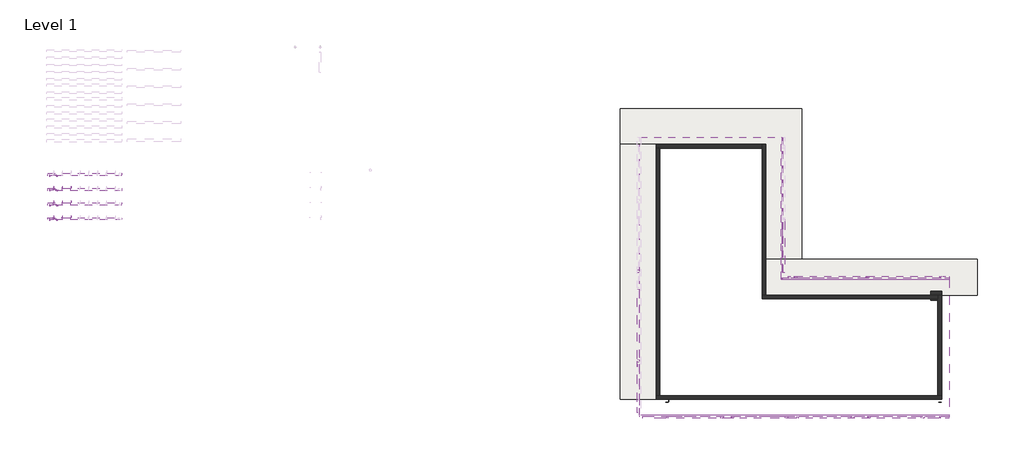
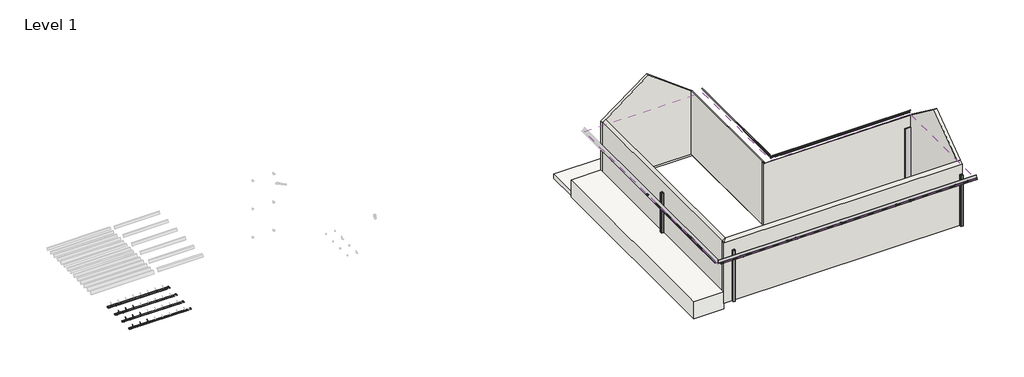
# One storey, part 1 of 2: 54 proxies, 6 walls, 4 columns, 3 slabs, 1 roof.
"""IFC4 building model written with IfcOpenShell, lengths in millimetres."""

from ifc_helpers import new_model, si_unit, point, frame, frame_2d, origin, origin_with_axes, place, context, project, spatial, polyline, circle_curve, trimmed, segment, composite_curve, outline, extrude, faceted_brep, transform, mapped, element, save
from components import alignment_bracket_76c64be8, b_205_a_160mm_78ee4c8c, b_205_a_160mm_ba62c7e3, b_205_a_160mm_6113b0de, support_for_ladder_f5df2bd2, support_for_ladder_32d1af20, support_for_ladder_5c5d3373, support_for_ladder_3a7e4ef8, t100_66401546, t100_925c021a, t100_1d9620c0, t100_6eca1e63, t100_f3096ea2, t100_06940790, t100_75c98a39, t100_31191efa, t100_2706c048, t100_ef93b6f5, t100_36081ea8, t100_625066b8, t100_25e9c31b, t100_74cc6afe, t100_1bc59f46, t100_1b2db7d9, t120_630998e2, t120_ba8461eb, t125_4bbe78e1, t125_6f816af3, t150_019cf6e0

model = new_model("IFC4")

# Units and contexts
model_context = context("Model", 3, world=origin())
ifc_project = project(units=[si_unit("LENGTHUNIT", "METRE", prefix="MILLI")], contexts=[model_context])

# Site, building, storey
site = spatial("IfcSite", under=ifc_project)
building = spatial("IfcBuilding", under=site)
storey = spatial("IfcBuildingStorey", under=building, Name="Level 1", Elevation=0.0)

# Proxies
placement = place(None, origin())
alignment_bracket_shape = alignment_bracket_76c64be8(model_context)
element("IfcBuildingElementProxy", 1, Name="GROVIK_Gutter_Alignment bracket : Alignment bracket", ObjectType="GROVIK_Gutter_Alignment bracket : Alignment bracket", at=placement, inside=storey, context=model_context, shape_type="MappedRepresentation", body=[
    mapped(alignment_bracket_shape, transform((-107.3839867, 1193.8684654, 3937.0631468), x_axis=(0.9999500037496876, 0.0, -0.00999950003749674), y_axis=(0.0, 1.0, 0.0), z_axis=(0.00999950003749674, 0.0, 0.9999500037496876))),
])
element("IfcBuildingElementProxy", 2, Name="GROVIK_Gutter_Alignment bracket : Alignment bracket", ObjectType="GROVIK_Gutter_Alignment bracket : Alignment bracket", at=placement, inside=storey, context=model_context, shape_type="MappedRepresentation", body=[
    mapped(alignment_bracket_shape, transform((-599.3593885, 1193.8684654, 3941.9829008), x_axis=(0.9999500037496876, 0.0, -0.00999950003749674), y_axis=(0.0, 1.0, 0.0), z_axis=(0.00999950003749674, 0.0, 0.9999500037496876))),
])
element("IfcBuildingElementProxy", 3, Name="GROVIK_Gutter_Alignment bracket : Alignment bracket", ObjectType="GROVIK_Gutter_Alignment bracket : Alignment bracket", at=placement, inside=storey, context=model_context, shape_type="MappedRepresentation", body=[
    mapped(alignment_bracket_shape, transform((-1091.3347904, 1193.8684654, 3946.9026548), x_axis=(0.9999500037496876, 0.0, -0.00999950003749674), y_axis=(0.0, 1.0, 0.0), z_axis=(0.00999950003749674, 0.0, 0.9999500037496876))),
])
element("IfcBuildingElementProxy", 4, Name="GROVIK_Gutter_Alignment bracket : Alignment bracket", ObjectType="GROVIK_Gutter_Alignment bracket : Alignment bracket", at=placement, inside=storey, context=model_context, shape_type="MappedRepresentation", body=[
    mapped(alignment_bracket_shape, transform((-1091.2797931, 2020.3184654, 3952.4023798), x_axis=(0.9999500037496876, 0.0, -0.009999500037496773), y_axis=(0.0, 1.0, 0.0), z_axis=(0.009999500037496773, 0.0, 0.9999500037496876))),
])
element("IfcBuildingElementProxy", 5, Name="GROVIK_Gutter_Alignment bracket : Alignment bracket", ObjectType="GROVIK_Gutter_Alignment bracket : Alignment bracket", at=placement, inside=storey, context=model_context, shape_type="MappedRepresentation", body=[
    mapped(alignment_bracket_shape, transform((-107.3289895, 2020.3184654, 3942.5628718), x_axis=(0.9999500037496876, 0.0, -0.009999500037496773), y_axis=(0.0, 1.0, 0.0), z_axis=(0.009999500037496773, 0.0, 0.9999500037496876))),
])
element("IfcBuildingElementProxy", 6, Name="GROVIK_Gutter_Alignment bracket : Alignment bracket", ObjectType="GROVIK_Gutter_Alignment bracket : Alignment bracket", at=placement, inside=storey, context=model_context, shape_type="MappedRepresentation", body=[
    mapped(alignment_bracket_shape, transform((-599.3043913, 2020.3184654, 3947.4826258), x_axis=(0.9999500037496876, 0.0, -0.009999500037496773), y_axis=(0.0, 1.0, 0.0), z_axis=(0.009999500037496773, 0.0, 0.9999500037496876))),
])
element("IfcBuildingElementProxy", 7, Name="GROVIK_Gutter_Alignment bracket : Alignment bracket", ObjectType="GROVIK_Gutter_Alignment bracket : Alignment bracket", at=placement, inside=storey, context=model_context, shape_type="MappedRepresentation", body=[
    mapped(alignment_bracket_shape, transform((-107.418985, 2852.8184654, 3933.5633218), x_axis=(0.9999500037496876, 0.0, -0.009999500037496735), y_axis=(0.0, 1.0, 0.0), z_axis=(0.009999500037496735, 0.0, 0.9999500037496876))),
])
element("IfcBuildingElementProxy", 8, Name="GROVIK_Gutter_Alignment bracket : Alignment bracket", ObjectType="GROVIK_Gutter_Alignment bracket : Alignment bracket", at=placement, inside=storey, context=model_context, shape_type="MappedRepresentation", body=[
    mapped(alignment_bracket_shape, transform((-599.3943868, 2852.8184654, 3938.4830758), x_axis=(0.9999500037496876, 0.0, -0.009999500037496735), y_axis=(0.0, 1.0, 0.0), z_axis=(0.009999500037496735, 0.0, 0.9999500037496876))),
])
element("IfcBuildingElementProxy", 9, Name="GROVIK_Gutter_Alignment bracket : Alignment bracket", ObjectType="GROVIK_Gutter_Alignment bracket : Alignment bracket", at=placement, inside=storey, context=model_context, shape_type="MappedRepresentation", body=[
    mapped(alignment_bracket_shape, transform((-1091.3697886, 2852.8184654, 3943.4028298), x_axis=(0.9999500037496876, 0.0, -0.009999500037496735), y_axis=(0.0, 1.0, 0.0), z_axis=(0.009999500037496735, 0.0, 0.9999500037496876))),
])
b_205_a_160mm_shape = b_205_a_160mm_78ee4c8c(model_context)
element("IfcBuildingElementProxy", 10, Name="GROVIK_Flashing_Eaves : B-205 A 160mm", ObjectType="GROVIK_Flashing_Eaves : B-205 A 160mm", at=placement, inside=storey, context=model_context, shape_type="MappedRepresentation", body=[
    mapped(b_205_a_160mm_shape, transform((31585.785344, -9822.1344286, 3881.25), x_axis=(1.0, 0.0, 0.0), y_axis=(0.0, 1.0, 0.0), z_axis=(0.0, 0.0, 1.0))),
])
b_205_a_160mm_2_shape = b_205_a_160mm_ba62c7e3(model_context)
element("IfcBuildingElementProxy", 11, Name="GROVIK_Flashing_Eaves : B-205 A 160mm", ObjectType="GROVIK_Flashing_Eaves : B-205 A 160mm", at=placement, inside=storey, context=model_context, shape_type="MappedRepresentation", body=[
    mapped(b_205_a_160mm_2_shape, transform((48805.785344, -2222.1344286, 3881.25), x_axis=(-1.0, 0.0, 0.0), y_axis=(0.0, -1.0, 0.0), z_axis=(0.0, 0.0, 1.0))),
])
b_205_a_160mm_3_shape = b_205_a_160mm_6113b0de(model_context)
element("IfcBuildingElementProxy", 12, Name="GROVIK_Flashing_Eaves : B-205 A 160mm", ObjectType="GROVIK_Flashing_Eaves : B-205 A 160mm", at=placement, inside=storey, context=model_context, shape_type="MappedRepresentation", body=[
    mapped(b_205_a_160mm_3_shape, transform((39485.785344, -2222.1344286, 3881.25), x_axis=(0.0, 1.0, 0.0), y_axis=(-1.0, 0.0, 0.0), z_axis=(0.0, 0.0, 1.0))),
])
support_for_ladder_shape = support_for_ladder_f5df2bd2(model_context)
element("IfcBuildingElementProxy", 13, Name="GROVIK_Special_Ladder Support : Support for ladder", ObjectType="GROVIK_Special_Ladder Support : Support for ladder", at=placement, inside=storey, context=model_context, shape_type="MappedRepresentation", body=[
    mapped(support_for_ladder_shape, transform((-1066.3350403, 3682.3684654, 3996.7551622), x_axis=(0.9999500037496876, 0.0, -0.009999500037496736), y_axis=(0.0, 1.0, 0.0), z_axis=(0.009999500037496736, 0.0, 0.9999500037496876))),
])
support_for_ladder_2_shape = support_for_ladder_32d1af20(model_context)
element("IfcBuildingElementProxy", 14, Name="GROVIK_Special_Ladder Support : Support for ladder", ObjectType="GROVIK_Special_Ladder Support : Support for ladder", at=placement, inside=storey, context=model_context, shape_type="MappedRepresentation", body=[
    mapped(support_for_ladder_2_shape, transform((-1066.3350403, 1182.3684654, 3996.7551622), x_axis=(0.9999500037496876, 0.0, -0.00999950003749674), y_axis=(0.0, 1.0, 0.0), z_axis=(0.00999950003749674, 0.0, 0.9999500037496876))),
])
support_for_ladder_3_shape = support_for_ladder_5c5d3373(model_context)
element("IfcBuildingElementProxy", 15, Name="GROVIK_Special_Ladder Support : Support for ladder", ObjectType="GROVIK_Special_Ladder Support : Support for ladder", at=placement, inside=storey, context=model_context, shape_type="MappedRepresentation", body=[
    mapped(support_for_ladder_3_shape, transform((-1066.3350403, 2014.1184654, 3996.7551622), x_axis=(0.9999500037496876, 0.0, -0.009999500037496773), y_axis=(0.0, 1.0, 0.0), z_axis=(0.009999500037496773, 0.0, 0.9999500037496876))),
])
support_for_ladder_4_shape = support_for_ladder_3a7e4ef8(model_context)
element("IfcBuildingElementProxy", 16, Name="GROVIK_Special_Ladder Support : Support for ladder", ObjectType="GROVIK_Special_Ladder Support : Support for ladder", at=placement, inside=storey, context=model_context, shape_type="MappedRepresentation", body=[
    mapped(support_for_ladder_4_shape, transform((-1066.3350403, 2843.6184654, 3996.7551622), x_axis=(0.9999500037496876, 0.0, -0.009999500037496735), y_axis=(0.0, 1.0, 0.0), z_axis=(0.009999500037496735, 0.0, 0.9999500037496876))),
])
t100_shape = t100_66401546(model_context)
element("IfcBuildingElementProxy", 17, Name="GROVIK_Gutter_Support rod : T100", ObjectType="GROVIK_Gutter_Support rod : T100", at=placement, inside=storey, context=model_context, shape_type="MappedRepresentation", body=[
    mapped(t100_shape, transform((-106.8830118, 1182.3684654, 3987.160642), x_axis=(0.9999500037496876, 0.0, -0.00999950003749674), y_axis=(0.0, 1.0, 0.0), z_axis=(0.00999950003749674, 0.0, 0.9999500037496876))),
])
element("IfcBuildingElementProxy", 18, Name="GROVIK_Gutter_Support rod : T100", ObjectType="GROVIK_Gutter_Support rod : T100", at=placement, inside=storey, context=model_context, shape_type="MappedRepresentation", body=[
    mapped(t100_shape, transform((-598.8584136, 1182.3684654, 3992.080396), x_axis=(0.9999500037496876, 0.0, -0.00999950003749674), y_axis=(0.0, 1.0, 0.0), z_axis=(0.00999950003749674, 0.0, 0.9999500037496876))),
])
element("IfcBuildingElementProxy", 19, Name="GROVIK_Gutter_Support rod : T100", ObjectType="GROVIK_Gutter_Support rod : T100", at=placement, inside=storey, context=model_context, shape_type="MappedRepresentation", body=[
    mapped(t100_shape, transform((-1090.8338154, 1182.3684654, 3997.00015), x_axis=(0.9999500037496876, 0.0, -0.00999950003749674), y_axis=(0.0, 1.0, 0.0), z_axis=(0.00999950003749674, 0.0, 0.9999500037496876))),
])
t100_2_shape = t100_925c021a(model_context)
element("IfcBuildingElementProxy", 20, Name="GROVIK_Gutter_Joint : T100", ObjectType="GROVIK_Gutter_Joint : T100", at=placement, inside=storey, context=model_context, shape_type="MappedRepresentation", body=[
    mapped(t100_2_shape, transform((31535.785344, -1786.2358225, 3728.2500015), x_axis=(0.0, -0.999999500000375, -0.0009999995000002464), y_axis=(1.0, 0.0, 0.0), z_axis=(0.0, -0.0009999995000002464, 0.999999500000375))),
])
element("IfcBuildingElementProxy", 21, Name="GROVIK_Gutter_Joint : T100", ObjectType="GROVIK_Gutter_Joint : T100", at=placement, inside=storey, context=model_context, shape_type="MappedRepresentation", body=[
    mapped(t100_2_shape, transform((31535.785344, -6794.9459334, 3730.9553934), x_axis=(0.0, -0.9999995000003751, 0.0009999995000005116), y_axis=(1.0000000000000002, 0.0, 0.0), z_axis=(0.0, 0.0009999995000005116, 0.9999995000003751))),
])
element("IfcBuildingElementProxy", 22, Name="GROVIK_Gutter_Joint : T100", ObjectType="GROVIK_Gutter_Joint : T100", at=placement, inside=storey, context=model_context, shape_type="MappedRepresentation", body=[
    mapped(t100_2_shape, transform((31535.785344, -7044.5525583, 3731.25), x_axis=(0.0, -1.0, 0.0), y_axis=(1.0, 0.0, 0.0), z_axis=(0.0, 0.0, 1.0))),
])
element("IfcBuildingElementProxy", 23, Name="GROVIK_Gutter_Joint : T100", ObjectType="GROVIK_Gutter_Joint : T100", at=placement, inside=storey, context=model_context, shape_type="MappedRepresentation", body=[
    mapped(t100_2_shape, transform((36148.2932854, -9872.1344286, 3730.4812345), x_axis=(0.9999992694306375, 0.0, 0.0012087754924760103), y_axis=(0.0, 1.0, 0.0), z_axis=(-0.0012087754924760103, 0.0, 0.9999992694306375))),
])
element("IfcBuildingElementProxy", 24, Name="GROVIK_Gutter_Joint : T100", ObjectType="GROVIK_Gutter_Joint : T100", at=placement, inside=storey, context=model_context, shape_type="MappedRepresentation", body=[
    mapped(t100_2_shape, transform((36739.2798431, -9872.1344286, 3731.25), x_axis=(1.0, 0.0, 0.0), y_axis=(0.0, 1.0, 0.0), z_axis=(0.0, 0.0, 1.0))),
])
element("IfcBuildingElementProxy", 25, Name="GROVIK_Gutter_Joint : T100", ObjectType="GROVIK_Gutter_Joint : T100", at=placement, inside=storey, context=model_context, shape_type="MappedRepresentation", body=[
    mapped(t100_2_shape, transform((39740.2780585, -9872.1344286, 3727.9777235), x_axis=(0.9999994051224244, 0.0, -0.0010907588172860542), y_axis=(0.0, 1.0, 0.0), z_axis=(0.0010907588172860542, 0.0, 0.9999994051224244))),
])
element("IfcBuildingElementProxy", 26, Name="GROVIK_Gutter_Joint : T100", ObjectType="GROVIK_Gutter_Joint : T100", at=placement, inside=storey, context=model_context, shape_type="MappedRepresentation", body=[
    mapped(t100_2_shape, transform((43420.2627091, -9872.1344286, 3730.2840141), x_axis=(0.999999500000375, 0.0, 0.0009999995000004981), y_axis=(0.0, 1.0, 0.0), z_axis=(-0.0009999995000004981, 0.0, 0.999999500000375))),
])
element("IfcBuildingElementProxy", 27, Name="GROVIK_Gutter_Joint : T100", ObjectType="GROVIK_Gutter_Joint : T100", at=placement, inside=storey, context=model_context, shape_type="MappedRepresentation", body=[
    mapped(t100_2_shape, transform((44341.248575, -9872.1344286, 3731.25), x_axis=(1.0, 0.0, 0.0), y_axis=(0.0, 1.0, 0.0), z_axis=(0.0, 0.0, 1.0))),
])
element("IfcBuildingElementProxy", 28, Name="GROVIK_Gutter_Joint : T100", ObjectType="GROVIK_Gutter_Joint : T100", at=placement, inside=storey, context=model_context, shape_type="MappedRepresentation", body=[
    mapped(t100_2_shape, transform((47342.247075, -9872.1344286, 3728.2500015), x_axis=(0.999999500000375, 0.0, -0.0009999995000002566), y_axis=(0.0, 1.0, 0.0), z_axis=(0.0009999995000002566, 0.0, 0.999999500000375))),
])
element("IfcBuildingElementProxy", 29, Name="GROVIK_Gutter_Joint : T100", ObjectType="GROVIK_Gutter_Joint : T100", at=placement, inside=storey, context=model_context, shape_type="MappedRepresentation", body=[
    mapped(t100_2_shape, transform((44258.0904723, -2172.1344286, 3731.1982612), x_axis=(-0.9999995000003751, 0.0, 0.0009999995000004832), y_axis=(0.0, -1.0000000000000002, 0.0), z_axis=(0.0009999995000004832, 0.0, 0.9999995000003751))),
])
element("IfcBuildingElementProxy", 30, Name="GROVIK_Gutter_Joint : T100", ObjectType="GROVIK_Gutter_Joint : T100", at=placement, inside=storey, context=model_context, shape_type="MappedRepresentation", body=[
    mapped(t100_2_shape, transform((44251.351687, -2172.1344286, 3731.25), x_axis=(-1.0, 0.0, 0.0), y_axis=(0.0, -1.0, 0.0), z_axis=(0.0, 0.0, 1.0))),
])
element("IfcBuildingElementProxy", 31, Name="GROVIK_Gutter_Joint : T100", ObjectType="GROVIK_Gutter_Joint : T100", at=placement, inside=storey, context=model_context, shape_type="MappedRepresentation", body=[
    mapped(t100_2_shape, transform((40250.353687, -2172.1344286, 3727.250002), x_axis=(-0.9999995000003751, 0.0, -0.0009999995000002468), y_axis=(0.0, -1.0000000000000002, 0.0), z_axis=(-0.0009999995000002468, 0.0, 0.9999995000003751))),
])
t100_3_shape = t100_1d9620c0(model_context)
element("IfcBuildingElementProxy", 32, Name="GROVIK_Gutter_Straight : T100", ObjectType="GROVIK_Gutter_Straight : T100", at=placement, inside=storey, context=model_context, shape_type="MappedRepresentation", body=[
    mapped(t100_3_shape, transform((-1510.8188166, 1182.3684654, 4000.0), x_axis=(1.0, 0.0, 0.0), y_axis=(0.0, 1.0, 0.0), z_axis=(0.0, 0.0, 1.0))),
])
t100_4_shape = t100_6eca1e63(model_context)
element("IfcBuildingElementProxy", 33, Name="GROVIK_Gutter_Straight : T100", ObjectType="GROVIK_Gutter_Straight : T100", at=placement, inside=storey, context=model_context, shape_type="MappedRepresentation", body=[
    mapped(t100_4_shape, transform((44341.248575, -9872.1344286, 3731.25), x_axis=(1.0, 0.0, 0.0), y_axis=(0.0, 1.0, 0.0), z_axis=(0.0, 0.0, 1.0))),
])
t100_5_shape = t100_f3096ea2(model_context)
element("IfcBuildingElementProxy", 34, Name="GROVIK_Gutter_Straight : T100", ObjectType="GROVIK_Gutter_Straight : T100", at=placement, inside=storey, context=model_context, shape_type="MappedRepresentation", body=[
    mapped(t100_5_shape, transform((40375.2642091, -9872.1344286, 3727.2840156), x_axis=(1.0, 0.0, 0.0), y_axis=(0.0, 1.0, 0.0), z_axis=(0.0, 0.0, 1.0))),
])
t100_6_shape = t100_06940790(model_context)
element("IfcBuildingElementProxy", 35, Name="GROVIK_Gutter_Straight : T100", ObjectType="GROVIK_Gutter_Straight : T100", at=placement, inside=storey, context=model_context, shape_type="MappedRepresentation", body=[
    mapped(t100_6_shape, transform((48307.232941, -9872.1344286, 3727.2840156), x_axis=(1.0, 0.0, 0.0), y_axis=(0.0, 1.0, 0.0), z_axis=(0.0, 0.0, 1.0))),
])
t100_7_shape = t100_75c98a39(model_context)
element("IfcBuildingElementProxy", 36, Name="GROVIK_Gutter_Straight : T100", ObjectType="GROVIK_Gutter_Straight : T100", at=placement, inside=storey, context=model_context, shape_type="MappedRepresentation", body=[
    mapped(t100_7_shape, transform((48805.785344, -2172.1344286, 3727.7009601), x_axis=(-1.0, 0.0, 0.0), y_axis=(0.0, -1.0, 0.0), z_axis=(0.0, 0.0, 1.0))),
])
t100_8_shape = t100_31191efa(model_context)
element("IfcBuildingElementProxy", 37, Name="GROVIK_Gutter_Straight : T100", ObjectType="GROVIK_Gutter_Straight : T100", at=placement, inside=storey, context=model_context, shape_type="MappedRepresentation", body=[
    mapped(t100_8_shape, transform((48303.0884723, -2172.1344286, 3727.1982632), x_axis=(-1.0, 0.0, 0.0), y_axis=(0.0, -1.0, 0.0), z_axis=(0.0, 0.0, 1.0))),
])
t100_9_shape = t100_2706c048(model_context)
element("IfcBuildingElementProxy", 38, Name="GROVIK_Gutter_Straight : T100", ObjectType="GROVIK_Gutter_Straight : T100", at=placement, inside=storey, context=model_context, shape_type="MappedRepresentation", body=[
    mapped(t100_9_shape, transform((44251.351687, -2172.1344286, 3731.25), x_axis=(-1.0, 0.0, 0.0), y_axis=(0.0, -1.0, 0.0), z_axis=(0.0, 0.0, 1.0))),
])
t100_10_shape = t100_ef93b6f5(model_context)
element("IfcBuildingElementProxy", 39, Name="GROVIK_Gutter_Straight : T100", ObjectType="GROVIK_Gutter_Straight : T100", at=placement, inside=storey, context=model_context, shape_type="MappedRepresentation", body=[
    mapped(t100_10_shape, transform((40199.6149017, -2172.1344286, 3727.1982632), x_axis=(-1.0, 0.0, 0.0), y_axis=(0.0, -1.0, 0.0), z_axis=(0.0, 0.0, 1.0))),
])
t100_11_shape = t100_36081ea8(model_context)
element("IfcBuildingElementProxy", 40, Name="GROVIK_Gutter_Straight : T100", ObjectType="GROVIK_Gutter_Straight : T100", at=placement, inside=storey, context=model_context, shape_type="MappedRepresentation", body=[
    mapped(t100_11_shape, transform((39535.785344, -2172.1344286, 3727.8783337), x_axis=(0.0, 1.0, 0.0), y_axis=(-1.0, 0.0, 0.0), z_axis=(0.0, 0.0, 1.0))),
])
t100_12_shape = t100_625066b8(model_context)
element("IfcBuildingElementProxy", 41, Name="GROVIK_Gutter_Straight : T100", ObjectType="GROVIK_Gutter_Straight : T100", at=placement, inside=storey, context=model_context, shape_type="MappedRepresentation", body=[
    mapped(t100_12_shape, transform((31535.785344, -2749.9479334, 3726.9553954), x_axis=(0.0, -1.0, 0.0), y_axis=(1.0, 0.0, 0.0), z_axis=(0.0, 0.0, 1.0))),
])
t100_13_shape = t100_25e9c31b(model_context)
element("IfcBuildingElementProxy", 42, Name="GROVIK_Gutter_Straight : T100", ObjectType="GROVIK_Gutter_Straight : T100", at=placement, inside=storey, context=model_context, shape_type="MappedRepresentation", body=[
    mapped(t100_13_shape, transform((31535.785344, -7044.5525583, 3731.25), x_axis=(0.0, -1.0, 0.0), y_axis=(1.0, 0.0, 0.0), z_axis=(0.0, 0.0, 1.0))),
])
t100_14_shape = t100_74cc6afe(model_context)
element("IfcBuildingElementProxy", 43, Name="GROVIK_Gutter_Straight : T100", ObjectType="GROVIK_Gutter_Straight : T100", at=placement, inside=storey, context=model_context, shape_type="MappedRepresentation", body=[
    mapped(t100_14_shape, transform((31535.785344, -9872.1344286, 3728.4224181), x_axis=(1.0, 0.0, 0.0), y_axis=(0.0, 1.0, 0.0), z_axis=(0.0, 0.0, 1.0))),
])
t100_15_shape = t100_1bc59f46(model_context)
element("IfcBuildingElementProxy", 44, Name="GROVIK_Gutter_Straight : T100", ObjectType="GROVIK_Gutter_Straight : T100", at=placement, inside=storey, context=model_context, shape_type="MappedRepresentation", body=[
    mapped(t100_15_shape, transform((33103.2954771, -9872.1344286, 3726.854908), x_axis=(1.0, 0.0, 0.0), y_axis=(0.0, 1.0, 0.0), z_axis=(0.0, 0.0, 1.0))),
])
t100_16_shape = t100_1b2db7d9(model_context)
element("IfcBuildingElementProxy", 45, Name="GROVIK_Gutter_Straight : T100", ObjectType="GROVIK_Gutter_Straight : T100", at=placement, inside=storey, context=model_context, shape_type="MappedRepresentation", body=[
    mapped(t100_16_shape, transform((36739.2798431, -9872.1344286, 3731.25), x_axis=(1.0, 0.0, 0.0), y_axis=(0.0, 1.0, 0.0), z_axis=(0.0, 0.0, 1.0))),
])
t120_shape = t120_630998e2(model_context)
element("IfcBuildingElementProxy", 46, Name="GROVIK_Gutter_Support rod : T120", ObjectType="GROVIK_Gutter_Support rod : T120", at=placement, inside=storey, context=model_context, shape_type="MappedRepresentation", body=[
    mapped(t120_shape, transform((-1090.8338154, 2014.1184654, 3997.00015), x_axis=(0.9999500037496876, 0.0, -0.009999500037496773), y_axis=(0.0, 1.0, 0.0), z_axis=(0.009999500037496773, 0.0, 0.9999500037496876))),
])
element("IfcBuildingElementProxy", 47, Name="GROVIK_Gutter_Support rod : T120", ObjectType="GROVIK_Gutter_Support rod : T120", at=placement, inside=storey, context=model_context, shape_type="MappedRepresentation", body=[
    mapped(t120_shape, transform((-106.8830118, 2014.1184654, 3987.160642), x_axis=(0.9999500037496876, 0.0, -0.009999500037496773), y_axis=(0.0, 1.0, 0.0), z_axis=(0.009999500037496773, 0.0, 0.9999500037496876))),
])
element("IfcBuildingElementProxy", 48, Name="GROVIK_Gutter_Support rod : T120", ObjectType="GROVIK_Gutter_Support rod : T120", at=placement, inside=storey, context=model_context, shape_type="MappedRepresentation", body=[
    mapped(t120_shape, transform((-598.8584136, 2014.1184654, 3992.080396), x_axis=(0.9999500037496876, 0.0, -0.009999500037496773), y_axis=(0.0, 1.0, 0.0), z_axis=(0.009999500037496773, 0.0, 0.9999500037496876))),
])
t120_2_shape = t120_ba8461eb(model_context)
element("IfcBuildingElementProxy", 49, Name="GROVIK_Gutter_Straight : T120", ObjectType="GROVIK_Gutter_Straight : T120", at=placement, inside=storey, context=model_context, shape_type="MappedRepresentation", body=[
    mapped(t120_2_shape, transform((-1510.8188166, 2014.1184654, 4000.0), x_axis=(1.0, 0.0, 0.0), y_axis=(0.0, 1.0, 0.0), z_axis=(0.0, 0.0, 1.0))),
])
t125_shape = t125_4bbe78e1(model_context)
element("IfcBuildingElementProxy", 50, Name="GROVIK_Gutter_Support rod : T125", ObjectType="GROVIK_Gutter_Support rod : T125", at=placement, inside=storey, context=model_context, shape_type="MappedRepresentation", body=[
    mapped(t125_shape, transform((-106.8830118, 2843.6184654, 3987.160642), x_axis=(0.9999500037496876, 0.0, -0.009999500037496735), y_axis=(0.0, 1.0, 0.0), z_axis=(0.009999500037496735, 0.0, 0.9999500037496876))),
])
element("IfcBuildingElementProxy", 51, Name="GROVIK_Gutter_Support rod : T125", ObjectType="GROVIK_Gutter_Support rod : T125", at=placement, inside=storey, context=model_context, shape_type="MappedRepresentation", body=[
    mapped(t125_shape, transform((-598.8584136, 2843.6184654, 3992.080396), x_axis=(0.9999500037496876, 0.0, -0.009999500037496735), y_axis=(0.0, 1.0, 0.0), z_axis=(0.009999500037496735, 0.0, 0.9999500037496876))),
])
element("IfcBuildingElementProxy", 52, Name="GROVIK_Gutter_Support rod : T125", ObjectType="GROVIK_Gutter_Support rod : T125", at=placement, inside=storey, context=model_context, shape_type="MappedRepresentation", body=[
    mapped(t125_shape, transform((-1090.8338154, 2843.6184654, 3997.00015), x_axis=(0.9999500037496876, 0.0, -0.009999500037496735), y_axis=(0.0, 1.0, 0.0), z_axis=(0.009999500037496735, 0.0, 0.9999500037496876))),
])
t125_2_shape = t125_6f816af3(model_context)
element("IfcBuildingElementProxy", 53, Name="GROVIK_Gutter_Straight : T125", ObjectType="GROVIK_Gutter_Straight : T125", at=placement, inside=storey, context=model_context, shape_type="MappedRepresentation", body=[
    mapped(t125_2_shape, transform((-1510.8188166, 2843.6184654, 4000.0), x_axis=(1.0, 0.0, 0.0), y_axis=(0.0, 1.0, 0.0), z_axis=(0.0, 0.0, 1.0))),
])
t150_shape = t150_019cf6e0(model_context)
element("IfcBuildingElementProxy", 54, Name="GROVIK_Gutter_Straight : T150", ObjectType="GROVIK_Gutter_Straight : T150", at=placement, inside=storey, context=model_context, shape_type="MappedRepresentation", body=[
    mapped(t150_shape, transform((-1510.8188166, 3682.3684654, 4000.0), x_axis=(1.0, 0.0, 0.0), y_axis=(0.0, 1.0, 0.0), z_axis=(0.0, 0.0, 1.0))),
])

# Columns
element("IfcColumn", 55, ObjectType="M_HSS-Hollow Structural Section-Column : HSS152.4X152.4X7.9", at=placement, inside=storey, context=model_context, shape_type="SweptSolid", body=[
    extrude(outline(composite_curve([segment(trimmed(circle_curve(frame_2d((48366.7736282, -8940.9959438)), 14.78), [point((48366.7736282, -8926.2159438))], [point((48381.5536282, -8940.9959438))], False, "CARTESIAN"), True, "CONTINUOUS"), segment(polyline([(48381.5536282, -8940.9959438), (48381.5536282, -9063.4359438)]), True, "CONTINUOUS"), segment(trimmed(circle_curve(frame_2d((48366.7736282, -9063.4359438)), 14.78), [point((48381.5536282, -9063.4359438))], [point((48366.7736282, -9078.2159438))], False, "CARTESIAN"), True, "CONTINUOUS"), segment(polyline([(48366.7736282, -9078.2159438), (48244.3336282, -9078.2159438)]), True, "CONTINUOUS"), segment(trimmed(circle_curve(frame_2d((48244.3336282, -9063.4359438)), 14.78), [point((48244.3336282, -9078.2159438))], [point((48229.5536282, -9063.4359438))], False, "CARTESIAN"), True, "CONTINUOUS"), segment(polyline([(48229.5536282, -9063.4359438), (48229.5536282, -8940.9959438)]), True, "CONTINUOUS"), segment(trimmed(circle_curve(frame_2d((48244.3336282, -8940.9959438)), 14.78), [point((48229.5536282, -8940.9959438))], [point((48244.3336282, -8926.2159438))], False, "CARTESIAN"), True, "CONTINUOUS"), segment(polyline([(48244.3336282, -8926.2159438), (48366.7736282, -8926.2159438)]), True, "CONTINUOUS")], self_intersect=False), holes=[composite_curve([segment(polyline([(48366.7736282, -8933.6059438), (48244.3336282, -8933.6059438)]), True, "CONTINUOUS"), segment(trimmed(circle_curve(frame_2d((48244.3336282, -8940.9959438)), 7.39), [point((48244.3336282, -8933.6059438))], [point((48236.9436282, -8940.9959438))], True, "CARTESIAN"), True, "CONTINUOUS"), segment(polyline([(48236.9436282, -8940.9959438), (48236.9436282, -9063.4359438)]), True, "CONTINUOUS"), segment(trimmed(circle_curve(frame_2d((48244.3336282, -9063.4359438)), 7.39), [point((48236.9436282, -9063.4359438))], [point((48244.3336282, -9070.8259438))], True, "CARTESIAN"), True, "CONTINUOUS"), segment(polyline([(48244.3336282, -9070.8259438), (48366.7736282, -9070.8259438)]), True, "CONTINUOUS"), segment(trimmed(circle_curve(frame_2d((48366.7736282, -9063.4359438)), 7.39), [point((48366.7736282, -9070.8259438))], [point((48374.1636282, -9063.4359438))], True, "CARTESIAN"), True, "CONTINUOUS"), segment(polyline([(48374.1636282, -9063.4359438), (48374.1636282, -8940.9959438)]), True, "CONTINUOUS"), segment(trimmed(circle_curve(frame_2d((48366.7736282, -8940.9959438)), 7.39), [point((48374.1636282, -8940.9959438))], [point((48366.7736282, -8933.6059438))], True, "CARTESIAN"), True, "CONTINUOUS")], self_intersect=False)]), origin_with_axes(), (0.0, 0.0, 1.0), 3600.0),
])
element("IfcColumn", 56, ObjectType="M_HSS-Hollow Structural Section-Column : HSS152.4X152.4X7.9", at=placement, inside=storey, context=model_context, shape_type="SweptSolid", body=[
    extrude(outline(composite_curve([segment(trimmed(circle_curve(frame_2d((33164.2736282, -8940.9959438)), 14.78), [point((33164.2736282, -8926.2159438))], [point((33179.0536282, -8940.9959438))], False, "CARTESIAN"), True, "CONTINUOUS"), segment(polyline([(33179.0536282, -8940.9959438), (33179.0536282, -9063.4359438)]), True, "CONTINUOUS"), segment(trimmed(circle_curve(frame_2d((33164.2736282, -9063.4359438)), 14.78), [point((33179.0536282, -9063.4359438))], [point((33164.2736282, -9078.2159438))], False, "CARTESIAN"), True, "CONTINUOUS"), segment(polyline([(33164.2736282, -9078.2159438), (33041.8336282, -9078.2159438)]), True, "CONTINUOUS"), segment(trimmed(circle_curve(frame_2d((33041.8336282, -9063.4359438)), 14.78), [point((33041.8336282, -9078.2159438))], [point((33027.0536282, -9063.4359438))], False, "CARTESIAN"), True, "CONTINUOUS"), segment(polyline([(33027.0536282, -9063.4359438), (33027.0536282, -8940.9959438)]), True, "CONTINUOUS"), segment(trimmed(circle_curve(frame_2d((33041.8336282, -8940.9959438)), 14.78), [point((33027.0536282, -8940.9959438))], [point((33041.8336282, -8926.2159438))], False, "CARTESIAN"), True, "CONTINUOUS"), segment(polyline([(33041.8336282, -8926.2159438), (33164.2736282, -8926.2159438)]), True, "CONTINUOUS")], self_intersect=False), holes=[composite_curve([segment(polyline([(33164.2736282, -8933.6059438), (33041.8336282, -8933.6059438)]), True, "CONTINUOUS"), segment(trimmed(circle_curve(frame_2d((33041.8336282, -8940.9959438)), 7.39), [point((33041.8336282, -8933.6059438))], [point((33034.4436282, -8940.9959438))], True, "CARTESIAN"), True, "CONTINUOUS"), segment(polyline([(33034.4436282, -8940.9959438), (33034.4436282, -9063.4359438)]), True, "CONTINUOUS"), segment(trimmed(circle_curve(frame_2d((33041.8336282, -9063.4359438)), 7.39), [point((33034.4436282, -9063.4359438))], [point((33041.8336282, -9070.8259438))], True, "CARTESIAN"), True, "CONTINUOUS"), segment(polyline([(33041.8336282, -9070.8259438), (33164.2736282, -9070.8259438)]), True, "CONTINUOUS"), segment(trimmed(circle_curve(frame_2d((33164.2736282, -9063.4359438)), 7.39), [point((33164.2736282, -9070.8259438))], [point((33171.6636282, -9063.4359438))], True, "CARTESIAN"), True, "CONTINUOUS"), segment(polyline([(33171.6636282, -9063.4359438), (33171.6636282, -8940.9959438)]), True, "CONTINUOUS"), segment(trimmed(circle_curve(frame_2d((33164.2736282, -8940.9959438)), 7.39), [point((33171.6636282, -8940.9959438))], [point((33164.2736282, -8933.6059438))], True, "CARTESIAN"), True, "CONTINUOUS")], self_intersect=False)]), origin_with_axes(), (0.0, 0.0, 1.0), 3600.0),
])
element("IfcColumn", 57, ObjectType="M_HSS-Hollow Structural Section-Column : HSS152.4X152.4X7.9", at=placement, inside=storey, context=model_context, shape_type="SweptSolid", body=[
    extrude(outline(composite_curve([segment(trimmed(circle_curve(frame_2d((32465.5593586, -1857.3032929)), 14.78), [point((32465.5593586, -1842.5232929))], [point((32480.3393586, -1857.3032929))], False, "CARTESIAN"), True, "CONTINUOUS"), segment(polyline([(32480.3393586, -1857.3032929), (32480.3393586, -1979.7432929)]), True, "CONTINUOUS"), segment(trimmed(circle_curve(frame_2d((32465.5593586, -1979.7432929)), 14.78), [point((32480.3393586, -1979.7432929))], [point((32465.5593586, -1994.5232929))], False, "CARTESIAN"), True, "CONTINUOUS"), segment(polyline([(32465.5593586, -1994.5232929), (32343.1193586, -1994.5232929)]), True, "CONTINUOUS"), segment(trimmed(circle_curve(frame_2d((32343.1193586, -1979.7432929)), 14.78), [point((32343.1193586, -1994.5232929))], [point((32328.3393586, -1979.7432929))], False, "CARTESIAN"), True, "CONTINUOUS"), segment(polyline([(32328.3393586, -1979.7432929), (32328.3393586, -1857.3032929)]), True, "CONTINUOUS"), segment(trimmed(circle_curve(frame_2d((32343.1193586, -1857.3032929)), 14.78), [point((32328.3393586, -1857.3032929))], [point((32343.1193586, -1842.5232929))], False, "CARTESIAN"), True, "CONTINUOUS"), segment(polyline([(32343.1193586, -1842.5232929), (32465.5593586, -1842.5232929)]), True, "CONTINUOUS")], self_intersect=False), holes=[composite_curve([segment(polyline([(32465.5593586, -1849.9132929), (32343.1193586, -1849.9132929)]), True, "CONTINUOUS"), segment(trimmed(circle_curve(frame_2d((32343.1193586, -1857.3032929)), 7.39), [point((32343.1193586, -1849.9132929))], [point((32335.7293586, -1857.3032929))], True, "CARTESIAN"), True, "CONTINUOUS"), segment(polyline([(32335.7293586, -1857.3032929), (32335.7293586, -1979.7432929)]), True, "CONTINUOUS"), segment(trimmed(circle_curve(frame_2d((32343.1193586, -1979.7432929)), 7.39), [point((32335.7293586, -1979.7432929))], [point((32343.1193586, -1987.1332929))], True, "CARTESIAN"), True, "CONTINUOUS"), segment(polyline([(32343.1193586, -1987.1332929), (32465.5593586, -1987.1332929)]), True, "CONTINUOUS"), segment(trimmed(circle_curve(frame_2d((32465.5593586, -1979.7432929)), 7.39), [point((32465.5593586, -1987.1332929))], [point((32472.9493586, -1979.7432929))], True, "CARTESIAN"), True, "CONTINUOUS"), segment(polyline([(32472.9493586, -1979.7432929), (32472.9493586, -1857.3032929)]), True, "CONTINUOUS"), segment(trimmed(circle_curve(frame_2d((32465.5593586, -1857.3032929)), 7.39), [point((32472.9493586, -1857.3032929))], [point((32465.5593586, -1849.9132929))], True, "CARTESIAN"), True, "CONTINUOUS")], self_intersect=False)]), origin_with_axes(), (0.0, 0.0, 1.0), 3600.0),
])
element("IfcColumn", 58, ObjectType="M_Rectangular Column : 475 x 610mm", at=placement, inside=storey, context=model_context, shape_type="Brep", body=[
    faceted_brep([(48385.785344, -2914.6344286, 3600.0), (47775.785344, -2914.6344286, 3600.0), (47775.785344, -3122.1344286, 3600.0), (48185.785344, -3122.1344286, 3600.0), (48385.785344, -3122.1344286, 3600.0), (47775.785344, -2914.6344286, 0.0), (48385.785344, -2914.6344286, 0.0), (48385.785344, -3122.1344286, 0.0), (48185.785344, -3122.1344286, 0.0), (47775.785344, -3122.1344286, 0.0), (48385.785344, -2914.6344286, 1000.0), (47775.785344, -2914.6344286, 1000.0), (47775.785344, -3122.1344286, 1000.0), (48385.785344, -3122.1344286, 1000.0)], [[[0, 1, 2, 3, 4]], [[5, 6, 7, 8, 9]], [[1, 0, 10, 6, 5, 11]], [[1, 11, 5, 9, 12, 2]], [[6, 10, 0, 4, 13, 7]], [[4, 3, 8, 7, 13]], [[3, 2, 12, 9, 8]]]),
    faceted_brep([(47775.785344, -3389.6344286, 3600.0), (47775.785344, -3389.6344286, 0.0), (48185.785344, -3389.6344286, 0.0), (48185.785344, -3389.6344286, 3600.0), (48185.785344, -3322.1344286, 0.0), (48185.785344, -3322.1344286, 3600.0), (47775.785344, -3322.1344286, 3600.0), (47775.785344, -3322.1344286, 0.0)], [[[0, 1, 2, 3]], [[3, 2, 4, 5]], [[6, 5, 4, 7]], [[0, 3, 5, 6]], [[2, 1, 7, 4]], [[1, 0, 6, 7]]]),
])

# Roof
element("IfcRoof", 59, ObjectType="Generic - 225mm", at=placement, inside=storey, context=model_context, shape_type="Brep", body=[
    faceted_brep([(48805.785344, -6022.1344286, 6450.0), (48805.785344, -9822.1344286, 3600.0), (31585.785344, -9822.1344286, 3600.0), (35535.785344, -5872.1344286, 6562.5), (35685.785344, -6022.1344286, 6450.0), (39485.785344, -2222.1344286, 3600.0), (48805.785344, -2222.1344286, 3600.0), (31585.785344, 5677.8655714, 3600.0), (35535.785344, 5677.8655714, 6562.5), (39485.785344, 5677.8655714, 3600.0), (48805.785344, -9822.1344286, 3881.25), (48805.785344, -6022.1344286, 6731.25), (35685.785344, -6022.1344286, 6731.25), (35535.785344, -5872.1344286, 6843.75), (31585.785344, -9822.1344286, 3881.25), (48805.785344, -2222.1344286, 3881.25), (39485.785344, -2222.1344286, 3881.25), (31585.785344, 5677.8655714, 3881.25), (35535.785344, 5677.8655714, 6843.75), (39485.785344, 5677.8655714, 3881.25)], [[[0, 1, 2, 3, 4]], [[5, 6, 0, 4]], [[7, 8, 3, 2]], [[5, 4, 3, 8, 9]], [[10, 11, 12, 13, 14]], [[15, 16, 12, 11]], [[17, 14, 13, 18]], [[16, 19, 18, 13, 12]], [[1, 10, 14, 2]], [[5, 16, 15, 6]], [[9, 19, 16, 5]], [[2, 14, 17, 7]], [[15, 11, 10, 1, 0, 6]], [[17, 18, 19, 9, 8, 7]]]),
])

# Slabs
element("IfcSlab", 60, ObjectType="Generic 1200mm", at=placement, inside=storey, context=model_context, shape_type="Brep", body=[
    faceted_brep([(38585.785344, -3122.1344286, -200.0), (38585.785344, -1122.1344286, -200.0), (50385.785344, -1122.1344286, -200.0), (50385.785344, -3122.1344286, -200.0), (38585.785344, -1122.1344286, 1000.0), (38585.785344, -3122.1344286, 1000.0), (47775.785344, -3122.1344286, 1000.0), (47775.785344, -2914.6344286, 1000.0), (48385.785344, -2914.6344286, 1000.0), (48385.785344, -3122.1344286, 1000.0), (50385.785344, -3122.1344286, 1000.0), (50385.785344, -1122.1344286, 1000.0), (48385.785344, -3122.1344286, 0.0), (48185.785344, -3122.1344286, 0.0), (47775.785344, -3122.1344286, 0.0), (48385.785344, -2914.6344286, 0.0), (47775.785344, -2914.6344286, 0.0)], [[[0, 1, 2, 3]], [[4, 5, 6, 7, 8, 9, 10, 11]], [[1, 0, 5, 4]], [[0, 3, 10, 9, 12, 13, 14, 6, 5]], [[3, 2, 11, 10]], [[2, 1, 4, 11]], [[15, 16, 14, 13, 12]], [[16, 15, 8, 7]], [[14, 16, 7, 6]], [[15, 12, 9, 8]]]),
])
element("IfcSlab", 61, ObjectType="Generic 1200mm", at=placement, inside=storey, context=model_context, shape_type="SweptSolid", body=[
    extrude(outline(polyline([(32485.785344, -8922.1344286), (30485.785344, -8922.1344286), (30485.785344, 5277.8655714), (32485.785344, 5277.8655714), (32485.785344, -8922.1344286)])), frame((0.0, 0.0, -400.0), z_axis=(0.0, 0.0, 1.0), x_axis=(1.0, 0.0, 0.0)), (0.0, 0.0, 1.0), 1200.0),
])
element("IfcSlab", 62, ObjectType="Generic 300mm", at=placement, inside=storey, context=model_context, shape_type="SweptSolid", body=[
    extrude(outline(polyline([(30485.785344, 5277.8655714), (30485.785344, 7277.8655714), (40585.785344, 7277.8655714), (40585.785344, -1122.1344286), (38585.785344, -1122.1344286), (38585.785344, 5277.8655714), (30485.785344, 5277.8655714)])), frame((0.0, 0.0, -300.0), z_axis=(0.0, 0.0, 1.0), x_axis=(1.0, 0.0, 0.0)), (0.0, 0.0, 1.0), 300.0),
])

# Walls
element("IfcWall", 63, ObjectType="Generic - 200mm", at=placement, inside=storey, context=model_context, shape_type="Brep", body=[
    faceted_brep([(32485.785344, -8922.1344286, 0.0), (48385.785344, -8922.1344286, 0.0), (48385.785344, -8922.1344286, 4275.0), (32485.785344, -8922.1344286, 4275.0), (32485.785344, -8722.1344286, 0.0), (32485.785344, -8722.1344286, 4275.0), (32685.785344, -8722.1344286, 4425.0), (48185.785344, -8722.1344286, 4425.0), (48385.785344, -8722.1344286, 4425.0), (48385.785344, -8722.1344286, 0.0), (48185.785344, -8722.1344286, 0.0), (32685.785344, -8722.1344286, 0.0)], [[[0, 1, 2, 3]], [[4, 5, 6, 7, 8, 9, 10, 11]], [[1, 0, 4, 11, 10, 9]], [[2, 1, 9, 8]], [[0, 3, 5, 4]], [[3, 2, 8, 7, 6]], [[6, 5, 3]]]),
])
element("IfcWall", 64, ObjectType="Generic - 200mm", at=placement, inside=storey, context=model_context, shape_type="Brep", body=[
    faceted_brep([(48385.785344, -8722.1344286, 0.0), (48385.785344, -3122.1344286, 0.0), (48385.785344, -3122.1344286, 3600.0), (48385.785344, -3122.1344286, 4275.0), (48385.785344, -6022.1344286, 6450.0), (48385.785344, -8722.1344286, 4425.0), (48185.785344, -8722.1344286, 0.0), (48185.785344, -8722.1344286, 4425.0), (48185.785344, -6022.1344286, 6450.0), (48185.785344, -3322.1344286, 4425.0), (48185.785344, -3122.1344286, 4275.0), (48185.785344, -3122.1344286, 0.0), (48185.785344, -3322.1344286, 0.0), (48185.785344, -3389.6344286, 0.0)], [[[0, 1, 2, 3, 4, 5]], [[6, 7, 8, 9, 10, 11, 12, 13]], [[1, 0, 6, 13, 12, 11]], [[0, 5, 7, 6]], [[3, 2, 1, 11, 10]], [[5, 4, 8, 7]], [[4, 3, 10, 9, 8]]]),
])
element("IfcWall", 65, ObjectType="Generic - 200mm", at=placement, inside=storey, context=model_context, shape_type="Brep", body=[
    faceted_brep([(48185.785344, -3122.1344286, 0.0), (47775.785344, -3122.1344286, 0.0), (38585.785344, -3122.1344286, 0.0), (38385.785344, -3122.1344286, 0.0), (38385.785344, -3122.1344286, 4425.0), (38585.785344, -3122.1344286, 4275.0), (48185.785344, -3122.1344286, 4275.0), (48185.785344, -3322.1344286, 0.0), (48185.785344, -3322.1344286, 3600.0), (48185.785344, -3322.1344286, 4425.0), (38385.785344, -3322.1344286, 4425.0), (38385.785344, -3322.1344286, 0.0), (47775.785344, -3322.1344286, 0.0)], [[[0, 1, 2, 3, 4, 5, 6]], [[7, 8, 9, 10, 11, 12]], [[3, 2, 1, 0, 7, 12, 11]], [[0, 6, 9, 8, 7]], [[4, 3, 11, 10]], [[6, 5, 10, 9]], [[5, 4, 10]]]),
])
element("IfcWall", 66, ObjectType="Generic - 200mm", at=placement, inside=storey, context=model_context, shape_type="Brep", body=[
    faceted_brep([(38585.785344, -3122.1344286, 0.0), (38585.785344, 5277.8655714, 0.0), (38585.785344, 5277.8655714, 4275.0), (38585.785344, -3122.1344286, 4275.0), (38385.785344, -3122.1344286, 0.0), (38385.785344, -3122.1344286, 4425.0), (38385.785344, 5077.8655714, 4425.0), (38385.785344, 5277.8655714, 4425.0), (38385.785344, 5277.8655714, 0.0), (38385.785344, 5077.8655714, 0.0)], [[[0, 1, 2, 3]], [[4, 5, 6, 7, 8, 9]], [[1, 0, 4, 9, 8]], [[0, 3, 5, 4]], [[2, 1, 8, 7]], [[3, 2, 7, 6, 5]]]),
])
element("IfcWall", 67, ObjectType="Generic - 200mm", at=placement, inside=storey, context=model_context, shape_type="Brep", body=[
    faceted_brep([(38385.785344, 5277.8655714, 0.0), (32485.785344, 5277.8655714, 0.0), (32485.785344, 5277.8655714, 4275.0), (35535.785344, 5277.8655714, 6562.5), (38385.785344, 5277.8655714, 4425.0), (38385.785344, 5077.8655714, 0.0), (38385.785344, 5077.8655714, 4425.0), (35535.785344, 5077.8655714, 6562.5), (32685.785344, 5077.8655714, 4425.0), (32485.785344, 5077.8655714, 4275.0), (32485.785344, 5077.8655714, 0.0), (32685.785344, 5077.8655714, 0.0)], [[[0, 1, 2, 3, 4]], [[5, 6, 7, 8, 9, 10, 11]], [[1, 0, 5, 11, 10]], [[0, 4, 6, 5]], [[2, 1, 10, 9]], [[4, 3, 7, 6]], [[3, 2, 9, 8, 7]]]),
])
element("IfcWall", 68, ObjectType="Generic - 200mm", at=placement, inside=storey, context=model_context, shape_type="SweptSolid", body=[
    extrude(outline(polyline([(4275.0, 32485.785344), (0.0, 32485.785344), (0.0, 32685.785344), (4425.0, 32685.785344), (4275.0, 32485.785344)])), frame((0.0, -8722.1344286, 0.0), z_axis=(0.0, 1.0, 0.0), x_axis=(0.0, 0.0, 1.0)), (0.0, 0.0, 1.0), 13800.0),
])

save(model, "model.ifc")
